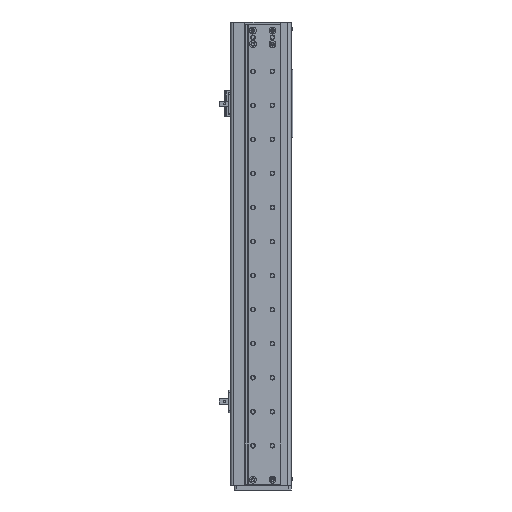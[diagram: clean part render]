
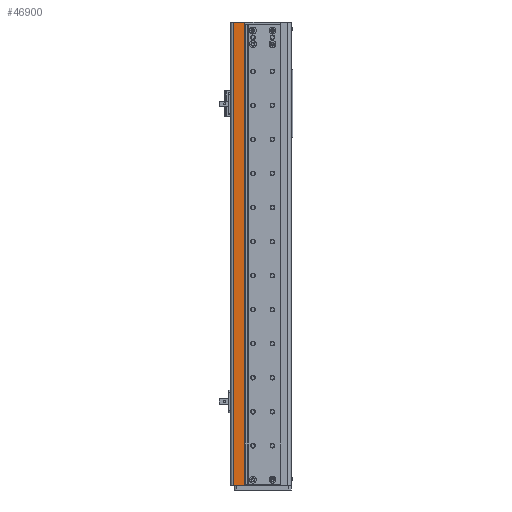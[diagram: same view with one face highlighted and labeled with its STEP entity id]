
A CAD part, front view. The second image highlights one B-rep face of the part: STEP entity #46900.
In plain terms, the highlighted planar face has unit normal (0, -1, 0).
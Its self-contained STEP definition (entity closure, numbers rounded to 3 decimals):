
#478 = EDGE_CURVE ( 'NONE', #43588, #40796, #45226, .T. ) ;
#3882 = VECTOR ( 'NONE', #3977, 1000. ) ;
#3977 = DIRECTION ( 'NONE',  ( 0., 0., -1. ) ) ;
#5978 = EDGE_CURVE ( 'NONE', #43588, #40086, #21873, .T. ) ;
#7490 = PLANE ( 'NONE',  #28192 ) ;
#9694 = CARTESIAN_POINT ( 'NONE',  ( 12.5, 0., 545. ) ) ;
#11111 = VECTOR ( 'NONE', #18290, 1000. ) ;
#11597 = CARTESIAN_POINT ( 'NONE',  ( 12.5, 0., 545. ) ) ;
#11606 = VERTEX_POINT ( 'NONE', #19573 ) ;
#11811 = DIRECTION ( 'NONE',  ( 1., 0., 0. ) ) ;
#12419 = CARTESIAN_POINT ( 'NONE',  ( 12.5, 0., 0. ) ) ;
#12684 = CARTESIAN_POINT ( 'NONE',  ( -1., 0., 545. ) ) ;
#13621 = ORIENTED_EDGE ( 'NONE', *, *, #28773, .T. ) ;
#15015 = CARTESIAN_POINT ( 'NONE',  ( -1., 0., 0. ) ) ;
#15737 = CARTESIAN_POINT ( 'NONE',  ( -1., 0., 0. ) ) ;
#16010 = VECTOR ( 'NONE', #36115, 1000. ) ;
#16898 = ORIENTED_EDGE ( 'NONE', *, *, #478, .T. ) ;
#17826 = VECTOR ( 'NONE', #11811, 1000. ) ;
#18183 = FACE_OUTER_BOUND ( 'NONE', #39856, .T. ) ;
#18290 = DIRECTION ( 'NONE',  ( 1., 0., 0. ) ) ;
#19573 = CARTESIAN_POINT ( 'NONE',  ( 12.3, 0., 0. ) ) ;
#19745 = DIRECTION ( 'NONE',  ( -1., 0., 0. ) ) ;
#20654 = EDGE_CURVE ( 'NONE', #11606, #40086, #26780, .T. ) ;
#21873 = LINE ( 'NONE', #9694, #11111 ) ;
#23498 = ORIENTED_EDGE ( 'NONE', *, *, #5978, .F. ) ;
#26780 = LINE ( 'NONE', #36281, #16010 ) ;
#28192 = AXIS2_PLACEMENT_3D ( 'NONE', #11597, #43508, #19745 ) ;
#28773 = EDGE_CURVE ( 'NONE', #40796, #11606, #39134, .T. ) ;
#33040 = CARTESIAN_POINT ( 'NONE',  ( 12.3, 0., 545. ) ) ;
#36115 = DIRECTION ( 'NONE',  ( 0., 0., 1. ) ) ;
#36281 = CARTESIAN_POINT ( 'NONE',  ( 12.3, 0., 545. ) ) ;
#39134 = LINE ( 'NONE', #12419, #17826 ) ;
#39856 = EDGE_LOOP ( 'NONE', ( #23498, #16898, #13621, #47849 ) ) ;
#40086 = VERTEX_POINT ( 'NONE', #33040 ) ;
#40796 = VERTEX_POINT ( 'NONE', #15015 ) ;
#43508 = DIRECTION ( 'NONE',  ( 0., 1., 0. ) ) ;
#43588 = VERTEX_POINT ( 'NONE', #12684 ) ;
#45226 = LINE ( 'NONE', #15737, #3882 ) ;
#46900 = ADVANCED_FACE ( 'NONE', ( #18183 ), #7490, .F. ) ;
#47849 = ORIENTED_EDGE ( 'NONE', *, *, #20654, .T. ) ;
